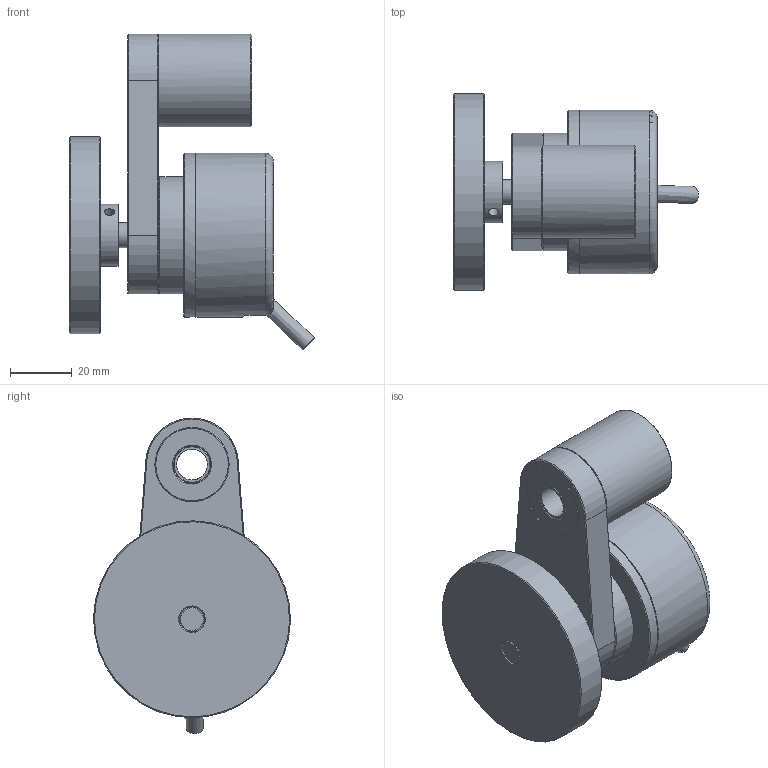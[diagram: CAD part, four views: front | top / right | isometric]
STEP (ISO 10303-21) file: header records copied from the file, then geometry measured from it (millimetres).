
FILE_DESCRIPTION( ( 'Unknown' ), '1' );
FILE_NAME( 'C:/Users/malfermoa/Desktop/step/RH_200B.stp', 'Unknown', ( 'Unknown' ), ( 'Unknown' ), 'PSStep 15.0.49', 'Unknown', ' ' );
FILE_SCHEMA( ( 'AUTOMOTIVE_DESIGN { 1 0 10303 214 1 1 1 1 }' ) );
Length unit declared in the file: millimetre
Products named in the file (16): cavo
Bounding box: 79.22 x 63.65 x 102.05 mm (x, y, z)
Volume: 105449.6 mm3; surface area: 40105.9 mm2
Topology: 16 solids, 17 shells, 219 faces, 518 edges, 337 vertices
Faces by surface type: plane 98, cylinder 63, cone 37, sphere 14, torus 4, bspline 3
Full cylindrical faces by diameter (mm): 2.013 x2, 2.459 x2, 2.5 x2, 3 x2, 3.242 x1, 3.5 x2, 5.5 x1, 6 x3, 7 x2, 8 x1, 8.006 x1, 9 x2, 10 x2, 10.006 x1, 11.8 x2, 12 x3, 19 x2, 20 x1, 20.006 x1, 22 x3, 23 x1, 24 x1, 30 x2, 38 x1, 49 x1, 53 x2, 63.66 x1
Entity records: 7715 total; most frequent: CARTESIAN_POINT 1513, DIRECTION 913, ORIENTED_EDGE 692, AXIS2_PLACEMENT_3D 390, EDGE_CURVE 346, EDGE_LOOP 329, VERTEX_POINT 297, FACE_OUTER_BOUND 255
